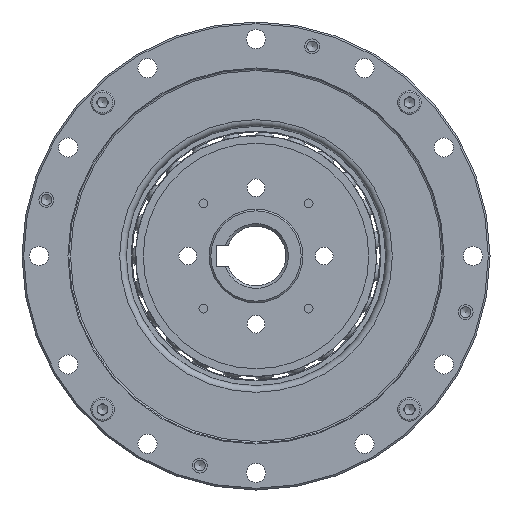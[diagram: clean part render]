
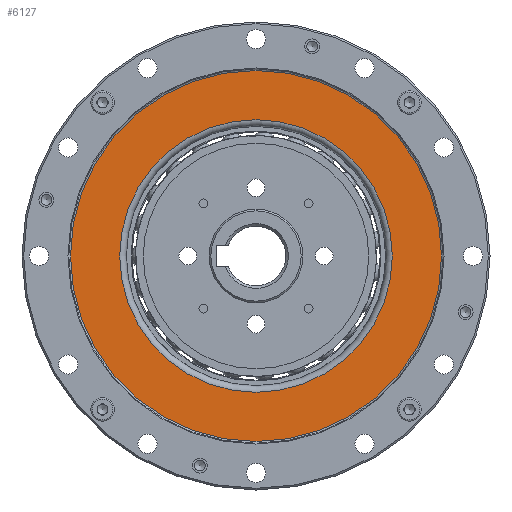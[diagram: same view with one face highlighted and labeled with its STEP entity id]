
A CAD part, left-side view. The second image highlights one B-rep face of the part: STEP entity #6127.
In plain terms, the highlighted planar face has unit normal (-1, 0, 0).
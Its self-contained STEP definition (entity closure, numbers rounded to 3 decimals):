
#364 = CARTESIAN_POINT ( 'NONE',  ( -19.45, 0., 0. ) ) ;
#563 = DIRECTION ( 'NONE',  ( 1., 0., 0. ) ) ;
#732 = CIRCLE ( 'NONE', #1320, 43.6 ) ;
#1281 = EDGE_CURVE ( 'NONE', #6386, #6386, #1574, .T. ) ;
#1320 = AXIS2_PLACEMENT_3D ( 'NONE', #364, #1385, #5904 ) ;
#1385 = DIRECTION ( 'NONE',  ( -1., 0., 0. ) ) ;
#1574 = CIRCLE ( 'NONE', #9405, 32.036 ) ;
#2029 = CARTESIAN_POINT ( 'NONE',  ( -19.45, 0., 32.036 ) ) ;
#4309 = ORIENTED_EDGE ( 'NONE', *, *, #5039, .T. ) ;
#5039 = EDGE_CURVE ( 'NONE', #9168, #9168, #732, .T. ) ;
#5054 = AXIS2_PLACEMENT_3D ( 'NONE', #9551, #10520, #14688 ) ;
#5230 = EDGE_LOOP ( 'NONE', ( #13675 ) ) ;
#5904 = DIRECTION ( 'NONE',  ( 0., 0., 1. ) ) ;
#6093 = DIRECTION ( 'NONE',  ( 0., 0., 1. ) ) ;
#6127 = ADVANCED_FACE ( 'NONE', ( #11979, #12487 ), #7687, .F. ) ;
#6386 = VERTEX_POINT ( 'NONE', #2029 ) ;
#7687 = PLANE ( 'NONE',  #5054 ) ;
#9168 = VERTEX_POINT ( 'NONE', #16267 ) ;
#9405 = AXIS2_PLACEMENT_3D ( 'NONE', #10205, #563, #6093 ) ;
#9551 = CARTESIAN_POINT ( 'NONE',  ( -19.45, -30.536, 0. ) ) ;
#10205 = CARTESIAN_POINT ( 'NONE',  ( -19.45, 0., 0. ) ) ;
#10520 = DIRECTION ( 'NONE',  ( 1., 0., 0. ) ) ;
#11979 = FACE_BOUND ( 'NONE', #5230, .T. ) ;
#12106 = EDGE_LOOP ( 'NONE', ( #4309 ) ) ;
#12487 = FACE_OUTER_BOUND ( 'NONE', #12106, .T. ) ;
#13675 = ORIENTED_EDGE ( 'NONE', *, *, #1281, .T. ) ;
#14688 = DIRECTION ( 'NONE',  ( 0., 0., 1. ) ) ;
#16267 = CARTESIAN_POINT ( 'NONE',  ( -19.45, 0., 43.6 ) ) ;
